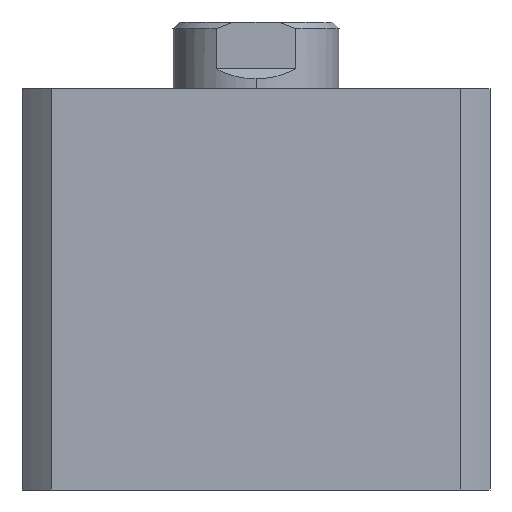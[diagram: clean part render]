
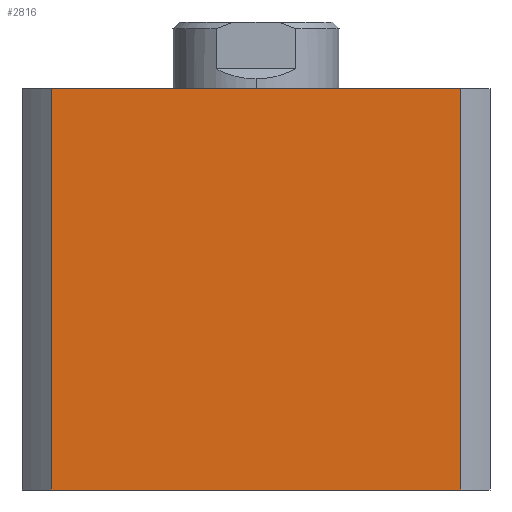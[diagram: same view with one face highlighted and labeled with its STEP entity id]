
A CAD part, left-side view. The second image highlights one B-rep face of the part: STEP entity #2816.
In plain terms, the highlighted planar face has unit normal (-1, 0, 0).
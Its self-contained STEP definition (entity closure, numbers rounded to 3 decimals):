
#189 = AXIS2_PLACEMENT_3D ( 'NONE', #508, #509, #522 ) ;
#508 = CARTESIAN_POINT ( 'NONE',  ( -35., 0., 60. ) ) ;
#509 = DIRECTION ( 'NONE',  ( 1., 0., 0. ) ) ;
#516 = PLANE ( 'NONE',  #189 ) ;
#522 = DIRECTION ( 'NONE',  ( 0., 1., 0. ) ) ;
#916 = FACE_OUTER_BOUND ( 'NONE', #3678, .T. ) ;
#1045 = LINE ( 'NONE', #4540, #1047 ) ;
#1047 = VECTOR ( 'NONE', #4547, 1000. ) ;
#1076 = LINE ( 'NONE', #4666, #1078 ) ;
#1078 = VECTOR ( 'NONE', #4664, 1000. ) ;
#1113 = LINE ( 'NONE', #4803, #1116 ) ;
#1116 = VECTOR ( 'NONE', #4804, 1000. ) ;
#1122 = LINE ( 'NONE', #4816, #1125 ) ;
#1125 = VECTOR ( 'NONE', #4817, 1000. ) ;
#2254 = CARTESIAN_POINT ( 'NONE',  ( -35., 30.615, 0. ) ) ;
#2279 = CARTESIAN_POINT ( 'NONE',  ( -35., 30.615, 60. ) ) ;
#2284 = CARTESIAN_POINT ( 'NONE',  ( -35., -30.615, 60. ) ) ;
#2307 = CARTESIAN_POINT ( 'NONE',  ( -35., -30.615, 0. ) ) ;
#2816 = ADVANCED_FACE ( 'NONE', ( #916 ), #516, .F. ) ;
#2998 = EDGE_CURVE ( 'NONE', #4251, #4256, #1045, .T. ) ;
#3022 = EDGE_CURVE ( 'NONE', #4256, #4305, #1076, .T. ) ;
#3051 = EDGE_CURVE ( 'NONE', #4251, #4201, #1113, .T. ) ;
#3410 = EDGE_CURVE ( 'NONE', #4201, #4305, #1122, .T. ) ;
#3678 = EDGE_LOOP ( 'NONE', ( #4141, #4235, #4132, #4164 ) ) ;
#4132 = ORIENTED_EDGE ( 'NONE', *, *, #2998, .F. ) ;
#4141 = ORIENTED_EDGE ( 'NONE', *, *, #3410, .T. ) ;
#4164 = ORIENTED_EDGE ( 'NONE', *, *, #3051, .T. ) ;
#4201 = VERTEX_POINT ( 'NONE', #2254 ) ;
#4235 = ORIENTED_EDGE ( 'NONE', *, *, #3022, .F. ) ;
#4251 = VERTEX_POINT ( 'NONE', #2279 ) ;
#4256 = VERTEX_POINT ( 'NONE', #2284 ) ;
#4305 = VERTEX_POINT ( 'NONE', #2307 ) ;
#4540 = CARTESIAN_POINT ( 'NONE',  ( -35., 0., 60. ) ) ;
#4547 = DIRECTION ( 'NONE',  ( 0., -1., 0. ) ) ;
#4664 = DIRECTION ( 'NONE',  ( 0., 0., -1. ) ) ;
#4666 = CARTESIAN_POINT ( 'NONE',  ( -35., -30.615, 60. ) ) ;
#4803 = CARTESIAN_POINT ( 'NONE',  ( -35., 30.615, 60. ) ) ;
#4804 = DIRECTION ( 'NONE',  ( 0., 0., -1. ) ) ;
#4816 = CARTESIAN_POINT ( 'NONE',  ( -35., 0., 0. ) ) ;
#4817 = DIRECTION ( 'NONE',  ( 0., -1., 0. ) ) ;
